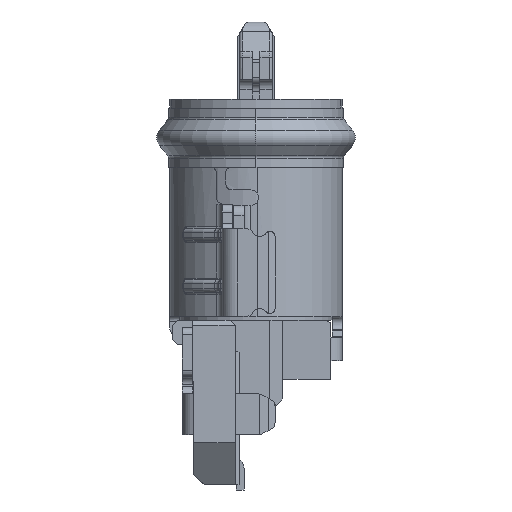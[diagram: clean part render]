
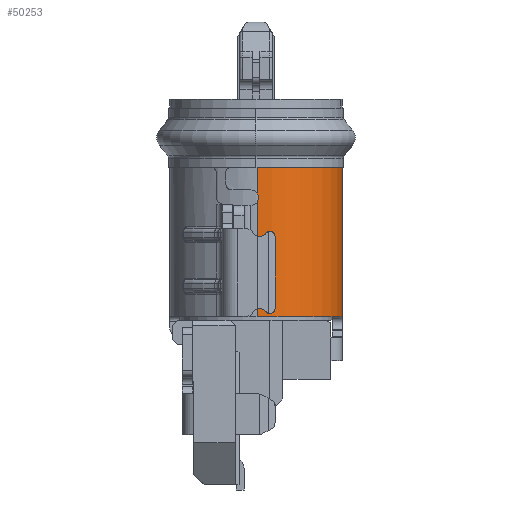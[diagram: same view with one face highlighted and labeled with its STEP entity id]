
A CAD part, left-side view. The second image highlights one B-rep face of the part: STEP entity #50253.
In plain terms, the highlighted cylindrical face has radius 1.66 mm (diameter 3.32 mm), a partial arc.
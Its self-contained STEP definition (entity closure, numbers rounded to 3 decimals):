
#584 = EDGE_CURVE ( 'NONE', #9793, #51020, #37968, .T. ) ;
#1078 = VECTOR ( 'NONE', #1651, 1000. ) ;
#1651 = DIRECTION ( 'NONE',  ( 0., 0., -1. ) ) ;
#1801 = CIRCLE ( 'NONE', #8495, 1.66 ) ;
#1961 = VERTEX_POINT ( 'NONE', #55605 ) ;
#1997 = CARTESIAN_POINT ( 'NONE',  ( -4.58, -0.135, -2.508 ) ) ;
#2116 = DIRECTION ( 'NONE',  ( 0., 0., -1. ) ) ;
#2864 = EDGE_CURVE ( 'NONE', #40384, #16555, #24518, .T. ) ;
#3294 = CARTESIAN_POINT ( 'NONE',  ( -4.58, -0.095, -1.955 ) ) ;
#3590 = ORIENTED_EDGE ( 'NONE', *, *, #43902, .T. ) ;
#4783 = DIRECTION ( 'NONE',  ( -1., 0., 0. ) ) ;
#6285 = AXIS2_PLACEMENT_3D ( 'NONE', #55014, #27661, #41187 ) ;
#8495 = AXIS2_PLACEMENT_3D ( 'NONE', #13949, #54819, #54521 ) ;
#9051 = ORIENTED_EDGE ( 'NONE', *, *, #39478, .T. ) ;
#9252 = LINE ( 'NONE', #55241, #48339 ) ;
#9793 = VERTEX_POINT ( 'NONE', #48139 ) ;
#13949 = CARTESIAN_POINT ( 'NONE',  ( -2.92, -0.095, -4.865 ) ) ;
#14003 = CARTESIAN_POINT ( 'NONE',  ( -4.58, -0.095, -2.455 ) ) ;
#14804 = CARTESIAN_POINT ( 'NONE',  ( -2.92, -1.755, -1.955 ) ) ;
#16555 = VERTEX_POINT ( 'NONE', #26347 ) ;
#17132 = LINE ( 'NONE', #3294, #44224 ) ;
#18037 = FACE_OUTER_BOUND ( 'NONE', #21294, .T. ) ;
#18274 = AXIS2_PLACEMENT_3D ( 'NONE', #18329, #36669, #4783 ) ;
#18329 = CARTESIAN_POINT ( 'NONE',  ( -2.92, -0.095, -4.865 ) ) ;
#18792 = EDGE_CURVE ( 'NONE', #1961, #16555, #1801, .T. ) ;
#18830 = ORIENTED_EDGE ( 'NONE', *, *, #2864, .T. ) ;
#20285 = CARTESIAN_POINT ( 'NONE',  ( -4.58, -0.095, -2.635 ) ) ;
#20649 = CARTESIAN_POINT ( 'NONE',  ( -4.58, -0.095, -2.455 ) ) ;
#21294 = EDGE_LOOP ( 'NONE', ( #56084, #3590, #51744, #9051, #54910, #18830 ) ) ;
#24518 = LINE ( 'NONE', #20285, #1078 ) ;
#26347 = CARTESIAN_POINT ( 'NONE',  ( -4.58, -0.095, -4.865 ) ) ;
#27661 = DIRECTION ( 'NONE',  ( 0., 0., 1. ) ) ;
#32626 = EDGE_CURVE ( 'NONE', #35044, #40384, #32872, .T. ) ;
#32872 = B_SPLINE_CURVE_WITH_KNOTS ( 'NONE', 3,
 ( #20649, #1997, #57297, #49171 ),
 .UNSPECIFIED., .F., .F.,
 ( 4, 4 ),
 ( 0., 1. ),
 .UNSPECIFIED. ) ;
#35044 = VERTEX_POINT ( 'NONE', #14003 ) ;
#36080 = CYLINDRICAL_SURFACE ( 'NONE', #18274, 1.66 ) ;
#36669 = DIRECTION ( 'NONE',  ( 0., 0., 1. ) ) ;
#37968 = CIRCLE ( 'NONE', #6285, 1.66 ) ;
#39478 = EDGE_CURVE ( 'NONE', #9793, #35044, #17132, .T. ) ;
#40384 = VERTEX_POINT ( 'NONE', #45769 ) ;
#41187 = DIRECTION ( 'NONE',  ( -1., 0., 0. ) ) ;
#43902 = EDGE_CURVE ( 'NONE', #1961, #51020, #9252, .T. ) ;
#44224 = VECTOR ( 'NONE', #2116, 1000. ) ;
#45769 = CARTESIAN_POINT ( 'NONE',  ( -4.58, -0.095, -2.635 ) ) ;
#48139 = CARTESIAN_POINT ( 'NONE',  ( -4.58, -0.095, -1.955 ) ) ;
#48339 = VECTOR ( 'NONE', #50721, 1000. ) ;
#49171 = CARTESIAN_POINT ( 'NONE',  ( -4.58, -0.095, -2.635 ) ) ;
#50253 = ADVANCED_FACE ( 'NONE', ( #18037 ), #36080, .T. ) ;
#50721 = DIRECTION ( 'NONE',  ( 0., 0., 1. ) ) ;
#51020 = VERTEX_POINT ( 'NONE', #14804 ) ;
#51744 = ORIENTED_EDGE ( 'NONE', *, *, #584, .F. ) ;
#54521 = DIRECTION ( 'NONE',  ( 0., -1., 0. ) ) ;
#54819 = DIRECTION ( 'NONE',  ( 0., 0., -1. ) ) ;
#54910 = ORIENTED_EDGE ( 'NONE', *, *, #32626, .T. ) ;
#55014 = CARTESIAN_POINT ( 'NONE',  ( -2.92, -0.095, -1.955 ) ) ;
#55241 = CARTESIAN_POINT ( 'NONE',  ( -2.92, -1.755, -4.865 ) ) ;
#55605 = CARTESIAN_POINT ( 'NONE',  ( -2.92, -1.755, -4.865 ) ) ;
#56084 = ORIENTED_EDGE ( 'NONE', *, *, #18792, .F. ) ;
#57297 = CARTESIAN_POINT ( 'NONE',  ( -4.58, -0.135, -2.581 ) ) ;
